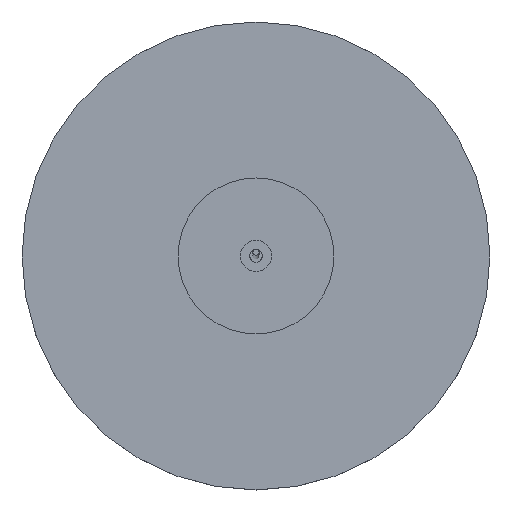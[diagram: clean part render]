
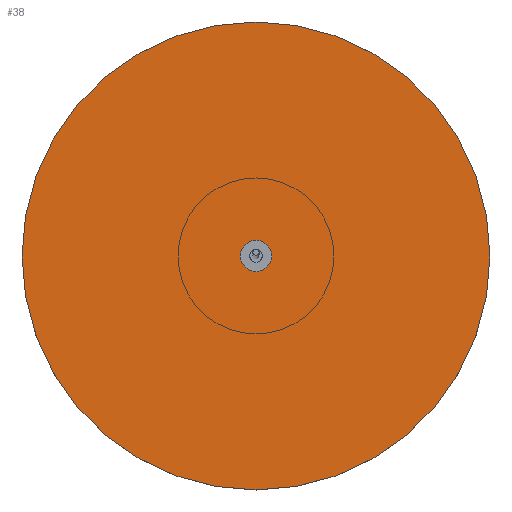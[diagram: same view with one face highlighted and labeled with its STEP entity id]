
A CAD part, top view. The second image highlights one B-rep face of the part: STEP entity #38.
In plain terms, the highlighted planar face has unit normal (0, 0, 1).
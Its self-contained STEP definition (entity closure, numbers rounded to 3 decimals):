
#11=FACE_BOUND('',#109,.T.);
#38=ADVANCED_FACE('',(#73,#11),#506,.T.);
#73=FACE_OUTER_BOUND('',#108,.T.);
#108=EDGE_LOOP('',(#167,#168));
#109=EDGE_LOOP('',(#169,#170));
#167=ORIENTED_EDGE('',*,*,#319,.F.);
#168=ORIENTED_EDGE('',*,*,#288,.F.);
#169=ORIENTED_EDGE('',*,*,#296,.T.);
#170=ORIENTED_EDGE('',*,*,#326,.T.);
#288=EDGE_CURVE('',#465,#487,#369,.T.);
#296=EDGE_CURVE('',#470,#492,#374,.T.);
#319=EDGE_CURVE('',#487,#465,#391,.T.);
#326=EDGE_CURVE('',#492,#470,#396,.T.);
#369=TRIMMED_CURVE($,#417,(#1078),(#1079),.T.,.CARTESIAN.);
#374=TRIMMED_CURVE($,#422,(#1099),(#1100),.T.,.CARTESIAN.);
#391=TRIMMED_CURVE($,#439,(#1162),(#1163),.T.,.CARTESIAN.);
#396=TRIMMED_CURVE($,#444,(#1181),(#1182),.T.,.CARTESIAN.);
#417=CIRCLE('',#656,225.);
#422=CIRCLE('',#661,14.997);
#439=CIRCLE('',#678,225.);
#444=CIRCLE('',#683,14.997);
#465=VERTEX_POINT('',#1030);
#470=VERTEX_POINT('',#1035);
#487=VERTEX_POINT('',#1052);
#492=VERTEX_POINT('',#1057);
#506=PLANE('',#631);
#631=AXIS2_PLACEMENT_3D('',#855,#715,$);
#656=AXIS2_PLACEMENT_3D($,#1077,#742,#743);
#661=AXIS2_PLACEMENT_3D($,#1098,#752,#753);
#678=AXIS2_PLACEMENT_3D($,#1161,#786,#787);
#683=AXIS2_PLACEMENT_3D($,#1180,#796,#797);
#715=DIRECTION('',(0.,0.,1.));
#742=DIRECTION('',(0.,0.,-1.));
#743=DIRECTION('',(1.,0.,0.));
#752=DIRECTION('',(0.,0.,-1.));
#753=DIRECTION('',(1.,0.,0.));
#786=DIRECTION('',(0.,0.,-1.));
#787=DIRECTION('',(-1.,0.,0.));
#796=DIRECTION('',(0.,0.,-1.));
#797=DIRECTION('',(-1.,0.,0.));
#855=CARTESIAN_POINT('',(281.25,-281.25,0.));
#1030=CARTESIAN_POINT('',(225.,0.,0.));
#1035=CARTESIAN_POINT('',(14.997,0.,0.));
#1052=CARTESIAN_POINT('',(-225.,0.,0.));
#1057=CARTESIAN_POINT('',(-14.997,0.,0.));
#1077=CARTESIAN_POINT('',(0.,0.,0.));
#1078=CARTESIAN_POINT('',(225.,0.,0.));
#1079=CARTESIAN_POINT('',(-225.,0.,0.));
#1098=CARTESIAN_POINT('',(0.,0.,0.));
#1099=CARTESIAN_POINT('',(14.997,0.,0.));
#1100=CARTESIAN_POINT('',(-14.997,0.,0.));
#1161=CARTESIAN_POINT('',(0.,0.,0.));
#1162=CARTESIAN_POINT('',(-225.,0.,0.));
#1163=CARTESIAN_POINT('',(225.,0.,0.));
#1180=CARTESIAN_POINT('',(0.,0.,0.));
#1181=CARTESIAN_POINT('',(-14.997,0.,0.));
#1182=CARTESIAN_POINT('',(14.997,0.,0.));
